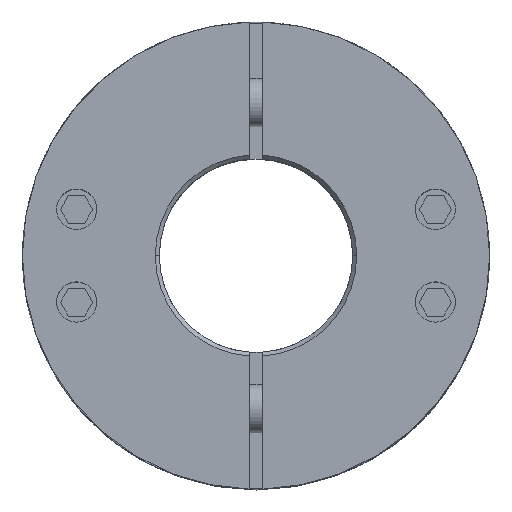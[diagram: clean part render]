
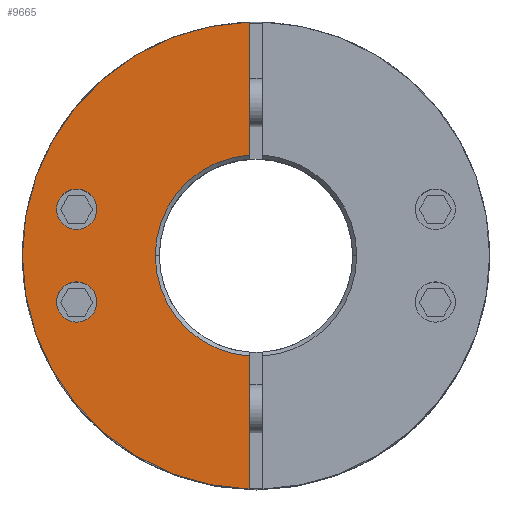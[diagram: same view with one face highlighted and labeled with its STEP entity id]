
A CAD part, top view. The second image highlights one B-rep face of the part: STEP entity #9665.
In plain terms, the highlighted planar face has unit normal (0, 0, 1).
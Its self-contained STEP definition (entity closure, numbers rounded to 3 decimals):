
#2545=CARTESIAN_POINT('',(-19.767,-5.759,27.125));
#2546=VERTEX_POINT('',#2545);
#2555=CARTESIAN_POINT('',(-24.767,-5.759,27.125));
#2556=VERTEX_POINT('',#2555);
#2557=CARTESIAN_POINT('',(-22.267,-5.759,27.125));
#2558=DIRECTION('',(0.0,0.0,-1.0));
#2559=DIRECTION('',(1.0,0.0,0.0));
#2560=AXIS2_PLACEMENT_3D('',#2557,#2558,#2559);
#2561=CIRCLE('',#2560,2.5);
#2562=EDGE_CURVE('',#2556,#2546,#2561,.T.);
#2671=CARTESIAN_POINT('',(-19.767,5.759,27.125));
#2672=VERTEX_POINT('',#2671);
#2681=CARTESIAN_POINT('',(-24.767,5.759,27.125));
#2682=VERTEX_POINT('',#2681);
#2683=CARTESIAN_POINT('',(-22.267,5.759,27.125));
#2684=DIRECTION('',(0.0,0.0,-1.0));
#2685=DIRECTION('',(1.0,0.0,0.0));
#2686=AXIS2_PLACEMENT_3D('',#2683,#2684,#2685);
#2687=CIRCLE('',#2686,2.5);
#2688=EDGE_CURVE('',#2682,#2672,#2687,.T.);
#2900=CARTESIAN_POINT('',(-29.0,0.,27.125));
#2901=VERTEX_POINT('',#2900);
#2908=CARTESIAN_POINT('',(-0.75,28.99,27.125));
#2909=VERTEX_POINT('',#2908);
#2910=CARTESIAN_POINT('',(0.0,0.0,27.125));
#2911=DIRECTION('',(0.0,0.0,-1.0));
#2912=DIRECTION('',(1.0,0.0,0.0));
#2913=AXIS2_PLACEMENT_3D('',#2910,#2911,#2912);
#2914=CIRCLE('',#2913,29.0);
#2915=EDGE_CURVE('',#2901,#2909,#2914,.T.);
#3262=CARTESIAN_POINT('',(-12.5,0.,27.125));
#3263=VERTEX_POINT('',#3262);
#3279=CARTESIAN_POINT('',(-0.75,12.477,27.125));
#3280=VERTEX_POINT('',#3279);
#3294=CARTESIAN_POINT('',(0.0,0.0,27.125));
#3295=DIRECTION('',(0.0,0.0,1.0));
#3296=DIRECTION('',(-1.0,0.0,0.0));
#3297=AXIS2_PLACEMENT_3D('',#3294,#3295,#3296);
#3298=CIRCLE('',#3297,12.5);
#3299=EDGE_CURVE('',#3280,#3263,#3298,.T.);
#9418=CARTESIAN_POINT('',(-0.75,-12.477,27.125));
#9419=VERTEX_POINT('',#9418);
#9420=CARTESIAN_POINT('',(0.0,0.0,27.125));
#9421=DIRECTION('',(0.0,0.0,1.0));
#9422=DIRECTION('',(-1.0,0.0,0.0));
#9423=AXIS2_PLACEMENT_3D('',#9420,#9421,#9422);
#9424=CIRCLE('',#9423,12.5);
#9425=EDGE_CURVE('',#3263,#9419,#9424,.T.);
#9458=CARTESIAN_POINT('',(-0.75,12.477,27.125));
#9459=DIRECTION('',(0.0,1.0,0.0));
#9460=VECTOR('',#9459,16.513);
#9461=LINE('',#9458,#9460);
#9462=EDGE_CURVE('',#3280,#2909,#9461,.T.);
#9572=CARTESIAN_POINT('',(-0.75,-28.99,27.125));
#9573=VERTEX_POINT('',#9572);
#9574=CARTESIAN_POINT('',(-0.75,-28.99,27.125));
#9575=DIRECTION('',(0.0,1.0,0.0));
#9576=VECTOR('',#9575,16.513);
#9577=LINE('',#9574,#9576);
#9578=EDGE_CURVE('',#9573,#9419,#9577,.T.);
#9626=CARTESIAN_POINT('',(2.636,0.,27.125));
#9627=DIRECTION('',(0.0,0.0,1.0));
#9628=DIRECTION('',(1.0,0.0,0.0));
#9629=AXIS2_PLACEMENT_3D('',#9626,#9627,#9628);
#9630=PLANE('',#9629);
#9631=ORIENTED_EDGE('',*,*,#3299,.F.);
#9632=ORIENTED_EDGE('',*,*,#9462,.T.);
#9633=ORIENTED_EDGE('',*,*,#2915,.F.);
#9634=CARTESIAN_POINT('',(0.0,0.0,27.125));
#9635=DIRECTION('',(0.0,0.0,-1.0));
#9636=DIRECTION('',(1.0,0.0,0.0));
#9637=AXIS2_PLACEMENT_3D('',#9634,#9635,#9636);
#9638=CIRCLE('',#9637,29.0);
#9639=EDGE_CURVE('',#9573,#2901,#9638,.T.);
#9640=ORIENTED_EDGE('',*,*,#9639,.F.);
#9641=ORIENTED_EDGE('',*,*,#9578,.T.);
#9642=ORIENTED_EDGE('',*,*,#9425,.F.);
#9643=EDGE_LOOP('',(#9631,#9632,#9633,#9640,#9641,#9642));
#9644=FACE_OUTER_BOUND('',#9643,.T.);
#9645=CARTESIAN_POINT('',(-22.267,-5.759,27.125));
#9646=DIRECTION('',(0.0,0.0,-1.0));
#9647=DIRECTION('',(1.0,0.0,0.0));
#9648=AXIS2_PLACEMENT_3D('',#9645,#9646,#9647);
#9649=CIRCLE('',#9648,2.5);
#9650=EDGE_CURVE('',#2546,#2556,#9649,.T.);
#9651=ORIENTED_EDGE('',*,*,#9650,.T.);
#9652=ORIENTED_EDGE('',*,*,#2562,.T.);
#9653=EDGE_LOOP('',(#9651,#9652));
#9654=FACE_BOUND('',#9653,.T.);
#9655=CARTESIAN_POINT('',(-22.267,5.759,27.125));
#9656=DIRECTION('',(0.0,0.0,-1.0));
#9657=DIRECTION('',(1.0,0.0,0.0));
#9658=AXIS2_PLACEMENT_3D('',#9655,#9656,#9657);
#9659=CIRCLE('',#9658,2.5);
#9660=EDGE_CURVE('',#2672,#2682,#9659,.T.);
#9661=ORIENTED_EDGE('',*,*,#9660,.T.);
#9662=ORIENTED_EDGE('',*,*,#2688,.T.);
#9663=EDGE_LOOP('',(#9661,#9662));
#9664=FACE_BOUND('',#9663,.T.);
#9665=ADVANCED_FACE('',(#9644,#9654,#9664),#9630,.T.);
